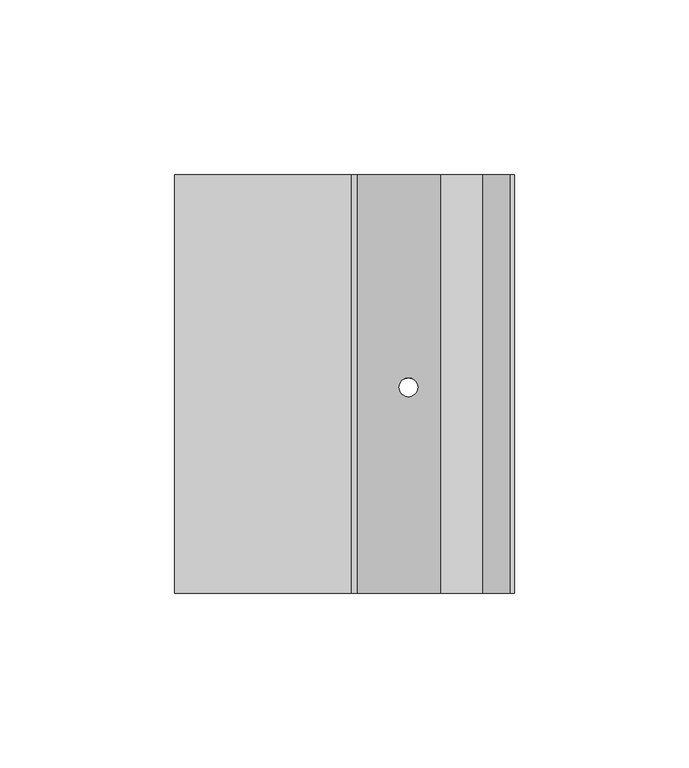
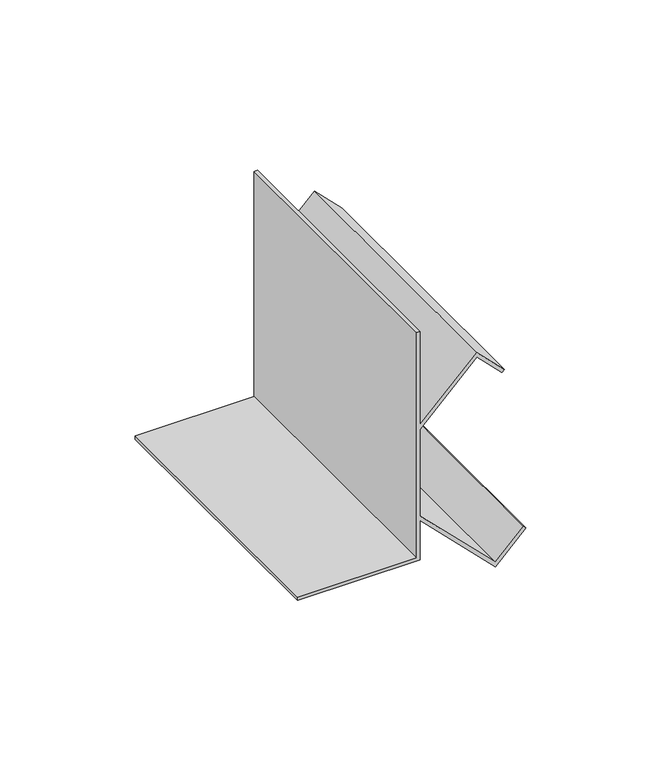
"""IFC4 building model written with IfcOpenShell, lengths in millimetres: proxy geometry, Mechanical Fittings & Accessories39 : Mechanical Fittings & Accessories."""

from ifc_helpers import new_model, si_unit, frame, origin, place, context, project, spatial, polyline, ellipse_curve, source, transform, mapped, element, save
from ifc_brep_helpers import plane_surface, revolved_surface, advanced_brep


def generic_models_6529b936(model_context):
    return source(origin(), model_context, "Body", "AdvancedBrep", [
        advanced_brep(
        [(-14670.9639562, 10780.4963986, 4114.8), (-14721.7639562, 10780.4963986, 4114.8), (-14721.7639562, 10780.4963986, 4113.3117188), (-14669.475675, 10780.4963986, 4113.3117188), (-14669.475675, 10780.4963986, 4131.1383509), (-14637.365914, 10780.4963986, 4099.0285899), (-14624.3869427, 10780.4963986, 4112.0075612), (-14625.4393164, 10780.4963986, 4113.059935), (-14637.365914, 10780.4963986, 4101.1333374), (-14669.475675, 10780.4963986, 4133.2430984), (-14669.475675, 10780.4963986, 4172.2761118), (-14645.303414, 10780.4963986, 4196.4483729), (-14634.5674414, 10780.4963986, 4185.7124003), (-14633.5150677, 10780.4963986, 4186.7647741), (-14645.303414, 10780.4963986, 4198.5531204), (-14669.475675, 10780.4963986, 4174.3808594), (-14669.475675, 10780.4963986, 4216.4), (-14670.9639562, 10780.4963986, 4216.4), (-14670.9639562, 10900.4645457, 4114.8), (-14670.9639562, 10900.4645457, 4216.4), (-14669.475675, 10900.4645457, 4216.4), (-14669.475675, 10900.4645457, 4174.3808594), (-14645.303414, 10900.4645457, 4198.5531204), (-14633.5150677, 10900.4645457, 4186.7647741), (-14634.5674414, 10900.4645457, 4185.7124003), (-14645.303414, 10900.4645457, 4196.4483729), (-14669.475675, 10900.4645457, 4172.2761118), (-14669.475675, 10900.4645457, 4133.2430984), (-14637.365914, 10900.4645457, 4101.1333374), (-14625.4393164, 10900.4645457, 4113.059935), (-14624.3869427, 10900.4645457, 4112.0075612), (-14637.365914, 10900.4645457, 4099.0285899), (-14669.475675, 10900.4645457, 4131.1383509), (-14669.475675, 10900.4645457, 4113.3117188), (-14721.7639562, 10900.4645457, 4113.3117188), (-14721.7639562, 10900.4645457, 4114.8), (-14657.3617646, 10839.5191481, 4119.0244406), (-14652.0223978, 10839.5191481, 4113.6850737), (-14652.0223978, 10839.5191481, 4115.7898213), (-14657.3617646, 10839.5191481, 4121.1291881), (-14657.3617646, 10839.5191481, 4184.3900222), (-14652.0223978, 10839.5191481, 4189.729389), (-14652.0223978, 10839.5191481, 4191.8341365), (-14657.3617646, 10839.5191481, 4186.4947697)],
        [
            (0, 1),
            (1, 2),
            (2, 3),
            (3, 4),
            (4, 5),
            (5, 6),
            (6, 7),
            (7, 8),
            (8, 9),
            (9, 10),
            (10, 11),
            (11, 12),
            (12, 13),
            (13, 14),
            (14, 15),
            (15, 16),
            (16, 17),
            (17, 0),
            (18, 19),
            (19, 20),
            (20, 21),
            (21, 22),
            (22, 23),
            (23, 24),
            (24, 25),
            (25, 26),
            (26, 27),
            (27, 28),
            (28, 29),
            (29, 30),
            (30, 31),
            (31, 32),
            (32, 33),
            (33, 34),
            (34, 35),
            (35, 18),
            (0, 18),
            (35, 1),
            (34, 2),
            (33, 3),
            (32, 4),
            (31, 5),
            (36, 37, ellipse_curve(frame((-14654.6920812, 10839.5191481, 4116.3547571), z_axis=(0.7071067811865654, 0.0, 0.7071067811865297), x_axis=(-0.7071067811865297, 0.0, 0.7071067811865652)), 3.7755025, 2.6696834)),
            (37, 36, ellipse_curve(frame((-14654.6920812, 10839.5191481, 4116.3547571), z_axis=(0.7071067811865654, 0.0, 0.7071067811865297), x_axis=(-0.7071067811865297, 0.0, 0.7071067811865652)), 3.7755025, 2.6696834)),
            (30, 6),
            (29, 7),
            (28, 8),
            (27, 9),
            (38, 39, ellipse_curve(frame((-14654.6920812, 10839.5191481, 4118.4595047), z_axis=(-0.7071067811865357, 0.0, -0.7071067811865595), x_axis=(-0.7071067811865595, 0.0, 0.7071067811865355)), 3.7755025, 2.6696834)),
            (39, 38, ellipse_curve(frame((-14654.6920812, 10839.5191481, 4118.4595047), z_axis=(-0.7071067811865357, 0.0, -0.7071067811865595), x_axis=(-0.7071067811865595, 0.0, 0.7071067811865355)), 3.7755025, 2.6696834)),
            (26, 10),
            (25, 11),
            (40, 41, ellipse_curve(frame((-14654.6920812, 10839.5191481, 4187.0597056), z_axis=(-0.7071067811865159, 0.0, 0.7071067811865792), x_axis=(0.7071067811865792, 0.0, 0.7071067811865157)), 3.7755025, 2.6696834)),
            (41, 40, ellipse_curve(frame((-14654.6920812, 10839.5191481, 4187.0597056), z_axis=(-0.7071067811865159, 0.0, 0.7071067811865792), x_axis=(0.7071067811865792, 0.0, 0.7071067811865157)), 3.7755025, 2.6696834)),
            (24, 12),
            (23, 13),
            (22, 14),
            (21, 15),
            (42, 43, ellipse_curve(frame((-14654.6920812, 10839.5191481, 4189.1644531), z_axis=(0.7071067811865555, 0.0, -0.7071067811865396), x_axis=(0.7071067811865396, 0.0, 0.7071067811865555)), 3.7755025, 2.6696834)),
            (43, 42, ellipse_curve(frame((-14654.6920812, 10839.5191481, 4189.1644531), z_axis=(0.7071067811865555, 0.0, -0.7071067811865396), x_axis=(0.7071067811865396, 0.0, 0.7071067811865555)), 3.7755025, 2.6696834)),
            (20, 16),
            (19, 17),
            (36, 39),
            (38, 37),
            (40, 43),
            (42, 41),
        ],
        [
            plane_surface(frame((-14721.7639562, 10780.4963986, 4114.8), z_axis=(0.0, -1.0, 0.0), x_axis=(-1.0, 0.0, 0.0))),
            plane_surface(frame((-14721.7639562, 10900.4645457, 4114.8), z_axis=(0.0, 1.0, 0.0), x_axis=(1.0, 0.0, 0.0))),
            plane_surface(frame((-14670.9639562, 10780.4963986, 4114.8), z_axis=(0.0, 0.0, 1.0), x_axis=(0.0, 1.0, 0.0))),
            plane_surface(frame((-14721.7639562, 10780.4963986, 4114.8), z_axis=(-1.0, 0.0, 0.0), x_axis=(0.0, 1.0, 0.0))),
            plane_surface(frame((-14721.7639562, 10780.4963986, 4113.3117188), z_axis=(0.0, 0.0, -1.0), x_axis=(0.0, 1.0, 0.0))),
            plane_surface(frame((-14669.475675, 10780.4963986, 4113.3117188), z_axis=(1.0, 0.0, 0.0), x_axis=(0.0, 1.0, 0.0))),
            plane_surface(frame((-14669.475675, 10780.4963986, 4131.1383509), z_axis=(-0.7071067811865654, 0.0, -0.7071067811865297), x_axis=(0.0, 1.0, 0.0))),
            plane_surface(frame((-14637.365914, 10780.4963986, 4099.0285899), z_axis=(0.7071067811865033, 0.0, -0.7071067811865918), x_axis=(0.0, 1.0, 0.0))),
            plane_surface(frame((-14624.3869427, 10780.4963986, 4112.0075612), z_axis=(0.7071067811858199, 0.0, 0.7071067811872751), x_axis=(0.0, 1.0, 0.0))),
            plane_surface(frame((-14625.4393164, 10780.4963986, 4113.059935), z_axis=(-0.7071067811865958, 0.0, 0.7071067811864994), x_axis=(0.0, 1.0, 0.0))),
            plane_surface(frame((-14637.365914, 10780.4963986, 4101.1333374), z_axis=(0.7071067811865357, 0.0, 0.7071067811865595), x_axis=(0.0, 1.0, 0.0))),
            plane_surface(frame((-14669.475675, 10780.4963986, 4133.2430984), z_axis=(1.0, 0.0, 0.0), x_axis=(0.0, 1.0, 0.0))),
            plane_surface(frame((-14669.475675, 10780.4963986, 4172.2761118), z_axis=(0.7071067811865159, 0.0, -0.7071067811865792), x_axis=(0.0, 1.0, 0.0))),
            plane_surface(frame((-14645.303414, 10780.4963986, 4196.4483729), z_axis=(-0.7071067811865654, 0.0, -0.7071067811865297), x_axis=(0.0, 1.0, 0.0))),
            plane_surface(frame((-14634.5674414, 10780.4963986, 4185.7124003), z_axis=(0.7071067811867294, 0.0, -0.7071067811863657), x_axis=(0.0, 1.0, 0.0))),
            plane_surface(frame((-14633.5150677, 10780.4963986, 4186.7647741), z_axis=(0.7071067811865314, 0.0, 0.7071067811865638), x_axis=(0.0, 1.0, 0.0))),
            plane_surface(frame((-14645.303414, 10780.4963986, 4198.5531204), z_axis=(-0.7071067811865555, 0.0, 0.7071067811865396), x_axis=(0.0, 1.0, 0.0))),
            plane_surface(frame((-14669.475675, 10780.4963986, 4174.3808594), z_axis=(1.0, 0.0, 0.0), x_axis=(0.0, 1.0, 0.0))),
            plane_surface(frame((-14669.475675, 10780.4963986, 4216.4), z_axis=(0.0, 0.0, 1.0), x_axis=(0.0, 1.0, 0.0))),
            plane_surface(frame((-14670.9639562, 10780.4963986, 4216.4), z_axis=(-1.0, 0.0, 0.0), x_axis=(0.0, 1.0, 0.0))),
            revolved_surface(polyline([(-14652.022397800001, 10839.5191481, 4121.129188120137), (-14652.022397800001, 10839.5191481, 4113.685073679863)]), (-14654.6920812, 10839.5191481, 4097.2034211), (0.0, 0.0, 1.0)),
            revolved_surface(polyline([(-14652.022397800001, 10839.5191481, 4191.834136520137), (-14652.022397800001, 10839.5191481, 4184.390022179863)]), (-14654.6920812, 10839.5191481, 4097.2034211), (0.0, 0.0, 1.0)),
        ],
        [
            (0, [[1, 2, 3, 4, 5, 6, 7, 8, 9, 10, 11, 12, 13, 14, 15, 16, 17, 18]]),
            (1, [[19, 20, 21, 22, 23, 24, 25, 26, 27, 28, 29, 30, 31, 32, 33, 34, 35, 36]]),
            (2, [[-1, 37, -36, 38]]),
            (3, [[-2, -38, -35, 39]]),
            (4, [[-3, -39, -34, 40]]),
            (5, [[-4, -40, -33, 41]]),
            (6, [[-5, -41, -32, 42], [43, 44]]),
            (7, [[-6, -42, -31, 45]]),
            (8, [[-7, -45, -30, 46]]),
            (9, [[-8, -46, -29, 47]]),
            (10, [[-9, -47, -28, 48], [49, 50]]),
            (11, [[-10, -48, -27, 51]]),
            (12, [[-11, -51, -26, 52], [53, 54]]),
            (13, [[-12, -52, -25, 55]]),
            (14, [[-13, -55, -24, 56]]),
            (15, [[-14, -56, -23, 57]]),
            (16, [[-15, -57, -22, 58], [59, 60]]),
            (17, [[-16, -58, -21, 61]]),
            (18, [[-17, -61, -20, 62]]),
            (19, [[-18, -62, -19, -37]]),
            (20, [[63, -49, 64, -43]]),
            (21, [[65, -59, 66, -53]]),
            (20, [[-63, -44, -64, -50]]),
            (21, [[-65, -54, -66, -60]]),
        ],
    ),
    ])


if __name__ == "__main__":
    model = new_model("IFC4")
    model_context = context("Model", 3, world=origin())
    ifc_project = project(units=[si_unit("LENGTHUNIT", "METRE", prefix="MILLI")], contexts=[model_context])
    site = spatial("IfcSite", under=ifc_project)
    building = spatial("IfcBuilding", under=site)
    placement = place(None, origin())
    generic_models_shape = generic_models_6529b936(model_context)
    element("IfcBuildingElementProxy", 1, Name="Mechanical Fittings & Accessories39 : Mechanical Fittings & Accessories", ObjectType="Mechanical Fittings & Accessories39 : Mechanical Fittings & Accessories", at=placement, inside=building, context=model_context, shape_type="MappedRepresentation", body=[
        mapped(generic_models_shape, transform((0.0, 0.0, 0.0), x_axis=(1.0, 0.0, 0.0), y_axis=(0.0, 1.0, 0.0), z_axis=(0.0, 0.0, 1.0))),
    ])
    save(model, "model.ifc")
